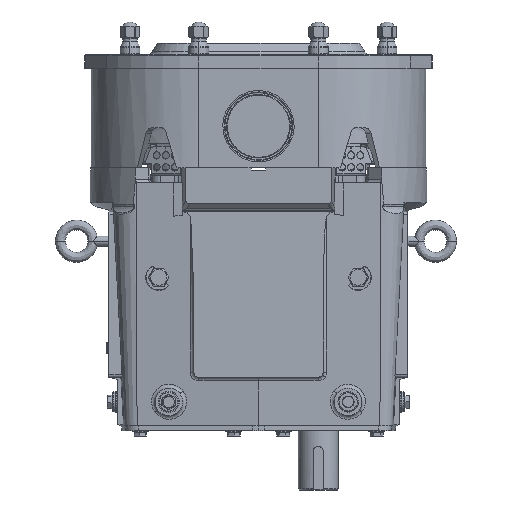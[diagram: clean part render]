
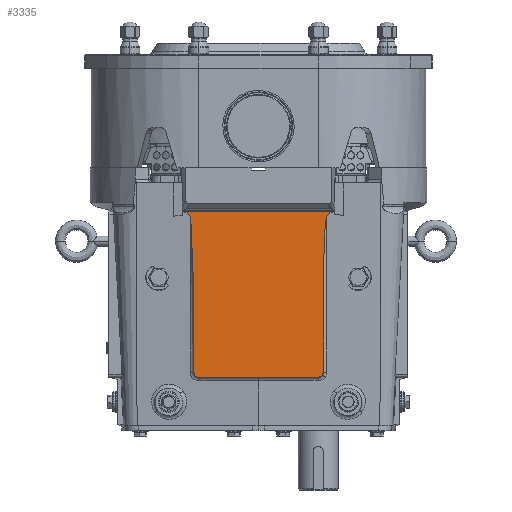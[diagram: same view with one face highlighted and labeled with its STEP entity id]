
A CAD part, left-side view. The second image highlights one B-rep face of the part: STEP entity #3335.
In plain terms, the highlighted planar face has unit normal (-1, 0, 0).
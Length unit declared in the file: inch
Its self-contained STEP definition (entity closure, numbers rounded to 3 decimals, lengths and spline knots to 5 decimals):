
#240 = FACE_OUTER_BOUND ( 'NONE', #10243, .T. ) ;
#308 = VERTEX_POINT ( 'NONE', #75360 ) ;
#1095 = CARTESIAN_POINT ( 'NONE',  ( -4.5, 0.69369, -2.40226 ) ) ;
#2000 = ORIENTED_EDGE ( 'NONE', *, *, #77210, .T. ) ;
#2468 = EDGE_CURVE ( 'NONE', #75907, #16120, #8354, .T. ) ;
#3000 = CIRCLE ( 'NONE', #29918, 0.25 ) ;
#3058 = CARTESIAN_POINT ( 'NONE',  ( -4.5, -6.73858, -2.38222 ) ) ;
#3283 = CARTESIAN_POINT ( 'NONE',  ( -4.5, -6.42676, -2.60777 ) ) ;
#3335 = ADVANCED_FACE ( 'NONE', ( #240 ), #16227, .F. ) ;
#3951 = CARTESIAN_POINT ( 'NONE',  ( -4.5, -6.42676, -2.60777 ) ) ;
#4014 = AXIS2_PLACEMENT_3D ( 'NONE', #22546, #79068, #41412 ) ;
#4748 =( BOUNDED_CURVE ( )  B_SPLINE_CURVE ( 3, ( #15691, #78241, #3058, #59541 ),
 .UNSPECIFIED., .F., .T. ) 
 B_SPLINE_CURVE_WITH_KNOTS ( ( 4, 4 ),
 ( 2.81528, 3.57251 ),
 .UNSPECIFIED. ) 
 CURVE ( )  GEOMETRIC_REPRESENTATION_ITEM ( )  RATIONAL_B_SPLINE_CURVE ( ( 1., 0.953, 0.953, 1. ) ) 
 REPRESENTATION_ITEM ( '' )  );
#5577 = ORIENTED_EDGE ( 'NONE', *, *, #58340, .F. ) ;
#6713 = VECTOR ( 'NONE', #52619, 39.37008 ) ;
#8354 = LINE ( 'NONE', #63524, #56465 ) ;
#8448 = VECTOR ( 'NONE', #57420, 39.37008 ) ;
#9049 = VERTEX_POINT ( 'NONE', #14901 ) ;
#10243 = EDGE_LOOP ( 'NONE', ( #22850, #40807, #2000, #10324, #40913, #64835, #11387, #11078, #49157, #65077, #48309, #12041, #5577, #65256 ) ) ;
#10324 = ORIENTED_EDGE ( 'NONE', *, *, #25765, .F. ) ;
#10376 = CARTESIAN_POINT ( 'NONE',  ( -4.5, -6.25, -10.67 ) ) ;
#10868 = LINE ( 'NONE', #79432, #58939 ) ;
#11078 = ORIENTED_EDGE ( 'NONE', *, *, #16435, .T. ) ;
#11387 = ORIENTED_EDGE ( 'NONE', *, *, #16298, .F. ) ;
#12041 = ORIENTED_EDGE ( 'NONE', *, *, #40274, .F. ) ;
#12260 =( BOUNDED_CURVE ( )  B_SPLINE_CURVE ( 3, ( #71730, #27831, #21543, #34100 ),
 .UNSPECIFIED., .F., .T. ) 
 B_SPLINE_CURVE_WITH_KNOTS ( ( 4, 4 ),
 ( 1.5708, 3.07188 ),
 .UNSPECIFIED. ) 
 CURVE ( )  GEOMETRIC_REPRESENTATION_ITEM ( )  RATIONAL_B_SPLINE_CURVE ( ( 1., 0.821, 0.821, 1. ) ) 
 REPRESENTATION_ITEM ( '' )  );
#13433 = EDGE_CURVE ( 'NONE', #46371, #75907, #4748, .T. ) ;
#14830 = CARTESIAN_POINT ( 'NONE',  ( -4.5, -6.58116, -2.40226 ) ) ;
#14901 = CARTESIAN_POINT ( 'NONE',  ( -4.5, 0.58116, -2.40226 ) ) ;
#15339 = CARTESIAN_POINT ( 'NONE',  ( -4.5, 1.25, -2.40226 ) ) ;
#15691 = CARTESIAN_POINT ( 'NONE',  ( -4.5, -6.64392, -2.40226 ) ) ;
#16120 = VERTEX_POINT ( 'NONE', #65121 ) ;
#16166 = EDGE_CURVE ( 'NONE', #39971, #36413, #12260, .T. ) ;
#16227 = PLANE ( 'NONE',  #4014 ) ;
#16298 = EDGE_CURVE ( 'NONE', #25338, #39971, #10868, .T. ) ;
#16380 = VECTOR ( 'NONE', #66876, 39.37008 ) ;
#16435 = EDGE_CURVE ( 'NONE', #25338, #34821, #3000, .T. ) ;
#17087 =( BOUNDED_CURVE ( )  B_SPLINE_CURVE ( 3, ( #63577, #19730, #1095, #44904 ),
 .UNSPECIFIED., .F., .T. ) 
 B_SPLINE_CURVE_WITH_KNOTS ( ( 4, 4 ),
 ( 5.85227, 6.6095 ),
 .UNSPECIFIED. ) 
 CURVE ( )  GEOMETRIC_REPRESENTATION_ITEM ( )  RATIONAL_B_SPLINE_CURVE ( ( 1., 0.953, 0.953, 1. ) ) 
 REPRESENTATION_ITEM ( '' )  );
#17122 = LINE ( 'NONE', #20353, #79947 ) ;
#19730 = CARTESIAN_POINT ( 'NONE',  ( -4.5, 0.73858, -2.38222 ) ) ;
#19903 = CARTESIAN_POINT ( 'NONE',  ( -4.5, 0.25, -6.22055 ) ) ;
#20353 = CARTESIAN_POINT ( 'NONE',  ( -4.5, 0.25, -10.67 ) ) ;
#20643 = CARTESIAN_POINT ( 'NONE',  ( -4.5, -6.64392, -2.40226 ) ) ;
#21543 = CARTESIAN_POINT ( 'NONE',  ( -4.5, 0.32178, -2.74751 ) ) ;
#22546 = CARTESIAN_POINT ( 'NONE',  ( -4.5, -11.43, -13.093 ) ) ;
#22850 = ORIENTED_EDGE ( 'NONE', *, *, #13433, .T. ) ;
#23065 = DIRECTION ( 'NONE',  ( 0., 1., 0. ) ) ;
#23383 = LINE ( 'NONE', #15339, #6713 ) ;
#24095 = VERTEX_POINT ( 'NONE', #26512 ) ;
#25338 = VERTEX_POINT ( 'NONE', #66687 ) ;
#25765 = EDGE_CURVE ( 'NONE', #9049, #308, #23383, .T. ) ;
#26087 = CIRCLE ( 'NONE', #31080, 0.25 ) ;
#26512 = CARTESIAN_POINT ( 'NONE',  ( -4.5, -6.25, -6.22055 ) ) ;
#26627 = DIRECTION ( 'NONE',  ( 0., 1., 0. ) ) ;
#26734 = EDGE_CURVE ( 'NONE', #35080, #24095, #70358, .T. ) ;
#27831 = CARTESIAN_POINT ( 'NONE',  ( -4.5, 0.25, -4.21455 ) ) ;
#29632 = CARTESIAN_POINT ( 'NONE',  ( -4.5, -6., -10.42 ) ) ;
#29852 = VECTOR ( 'NONE', #67622, 39.37008 ) ;
#29918 = AXIS2_PLACEMENT_3D ( 'NONE', #31323, #75272, #37635 ) ;
#31080 = AXIS2_PLACEMENT_3D ( 'NONE', #29632, #73568, #35938 ) ;
#31323 = CARTESIAN_POINT ( 'NONE',  ( -4.5, 0., -10.42 ) ) ;
#31705 = VERTEX_POINT ( 'NONE', #52139 ) ;
#32432 = CARTESIAN_POINT ( 'NONE',  ( -4.5, -0.07487, -11.06236 ) ) ;
#34100 = CARTESIAN_POINT ( 'NONE',  ( -4.5, 0.42676, -2.60777 ) ) ;
#34821 = VERTEX_POINT ( 'NONE', #73064 ) ;
#35080 = VERTEX_POINT ( 'NONE', #51063 ) ;
#35704 = CARTESIAN_POINT ( 'NONE',  ( -4.5, -6.25, -4.21455 ) ) ;
#35938 = DIRECTION ( 'NONE',  ( 0., 0., -1. ) ) ;
#36413 = VERTEX_POINT ( 'NONE', #65606 ) ;
#36830 = VERTEX_POINT ( 'NONE', #3283 ) ;
#37635 = DIRECTION ( 'NONE',  ( 0., 0., -1. ) ) ;
#39971 = VERTEX_POINT ( 'NONE', #19903 ) ;
#40274 = EDGE_CURVE ( 'NONE', #36830, #24095, #46694, .T. ) ;
#40807 = ORIENTED_EDGE ( 'NONE', *, *, #2468, .T. ) ;
#40913 = ORIENTED_EDGE ( 'NONE', *, *, #59875, .F. ) ;
#41412 = DIRECTION ( 'NONE',  ( 0., 0., -1. ) ) ;
#41765 = CARTESIAN_POINT ( 'NONE',  ( -4.5, -6.32178, -2.74751 ) ) ;
#41843 = EDGE_CURVE ( 'NONE', #31705, #34821, #17122, .T. ) ;
#41951 = VERTEX_POINT ( 'NONE', #14830 ) ;
#43770 = DIRECTION ( 'NONE',  ( 0., 1., 0. ) ) ;
#44904 = CARTESIAN_POINT ( 'NONE',  ( -4.5, 0.64392, -2.40226 ) ) ;
#46371 = VERTEX_POINT ( 'NONE', #20643 ) ;
#46694 =( BOUNDED_CURVE ( )  B_SPLINE_CURVE ( 3, ( #3951, #41765, #35704, #79662 ),
 .UNSPECIFIED., .F., .T. ) 
 B_SPLINE_CURVE_WITH_KNOTS ( ( 4, 4 ),
 ( 0.06972, 1.5708 ),
 .UNSPECIFIED. ) 
 CURVE ( )  GEOMETRIC_REPRESENTATION_ITEM ( )  RATIONAL_B_SPLINE_CURVE ( ( 1., 0.821, 0.821, 1. ) ) 
 REPRESENTATION_ITEM ( '' )  );
#47365 = EDGE_CURVE ( 'NONE', #46371, #41951, #48608, .T. ) ;
#48309 = ORIENTED_EDGE ( 'NONE', *, *, #26734, .T. ) ;
#48608 = LINE ( 'NONE', #67180, #65267 ) ;
#49157 = ORIENTED_EDGE ( 'NONE', *, *, #41843, .F. ) ;
#51063 = CARTESIAN_POINT ( 'NONE',  ( -4.5, -6.25, -10.42 ) ) ;
#52139 = CARTESIAN_POINT ( 'NONE',  ( -4.5, -6., -10.67 ) ) ;
#52619 = DIRECTION ( 'NONE',  ( 0., 1., 0. ) ) ;
#55276 = CARTESIAN_POINT ( 'NONE',  ( -4.5, -3.72763, -8.13741 ) ) ;
#56465 = VECTOR ( 'NONE', #43770, 39.37008 ) ;
#57420 = DIRECTION ( 'NONE',  ( 0., 0.601, -0.8 ) ) ;
#58340 = EDGE_CURVE ( 'NONE', #41951, #36830, #58505, .T. ) ;
#58505 = LINE ( 'NONE', #32432, #8448 ) ;
#58660 = EDGE_CURVE ( 'NONE', #31705, #35080, #26087, .T. ) ;
#58939 = VECTOR ( 'NONE', #73088, 39.37008 ) ;
#59541 = CARTESIAN_POINT ( 'NONE',  ( -4.5, -6.77223, -2.34498 ) ) ;
#59875 = EDGE_CURVE ( 'NONE', #36413, #9049, #63242, .T. ) ;
#63242 = LINE ( 'NONE', #55276, #29852 ) ;
#63524 = CARTESIAN_POINT ( 'NONE',  ( -4.5, -11.43, -2.34498 ) ) ;
#63577 = CARTESIAN_POINT ( 'NONE',  ( -4.5, 0.77223, -2.34498 ) ) ;
#64835 = ORIENTED_EDGE ( 'NONE', *, *, #16166, .F. ) ;
#65077 = ORIENTED_EDGE ( 'NONE', *, *, #58660, .T. ) ;
#65121 = CARTESIAN_POINT ( 'NONE',  ( -4.5, 0.77223, -2.34498 ) ) ;
#65256 = ORIENTED_EDGE ( 'NONE', *, *, #47365, .F. ) ;
#65267 = VECTOR ( 'NONE', #23065, 39.37008 ) ;
#65606 = CARTESIAN_POINT ( 'NONE',  ( -4.5, 0.42676, -2.60777 ) ) ;
#66522 = CARTESIAN_POINT ( 'NONE',  ( -4.5, -6.77223, -2.34498 ) ) ;
#66687 = CARTESIAN_POINT ( 'NONE',  ( -4.5, 0.25, -10.42 ) ) ;
#66876 = DIRECTION ( 'NONE',  ( 0., 0., 1. ) ) ;
#67180 = CARTESIAN_POINT ( 'NONE',  ( -4.5, 1.25, -2.40226 ) ) ;
#67622 = DIRECTION ( 'NONE',  ( 0., 0.601, 0.8 ) ) ;
#70358 = LINE ( 'NONE', #10376, #16380 ) ;
#71730 = CARTESIAN_POINT ( 'NONE',  ( -4.5, 0.25, -6.22055 ) ) ;
#73064 = CARTESIAN_POINT ( 'NONE',  ( -4.5, 0., -10.67 ) ) ;
#73088 = DIRECTION ( 'NONE',  ( 0., 0., 1. ) ) ;
#73568 = DIRECTION ( 'NONE',  ( -1., 0., 0. ) ) ;
#75272 = DIRECTION ( 'NONE',  ( -1., 0., 0. ) ) ;
#75360 = CARTESIAN_POINT ( 'NONE',  ( -4.5, 0.64392, -2.40226 ) ) ;
#75907 = VERTEX_POINT ( 'NONE', #66522 ) ;
#77210 = EDGE_CURVE ( 'NONE', #16120, #308, #17087, .T. ) ;
#78241 = CARTESIAN_POINT ( 'NONE',  ( -4.5, -6.69369, -2.40226 ) ) ;
#79068 = DIRECTION ( 'NONE',  ( 1., 0., 0. ) ) ;
#79432 = CARTESIAN_POINT ( 'NONE',  ( -4.5, 0.25, -10.67 ) ) ;
#79662 = CARTESIAN_POINT ( 'NONE',  ( -4.5, -6.25, -6.22055 ) ) ;
#79947 = VECTOR ( 'NONE', #26627, 39.37008 ) ;
